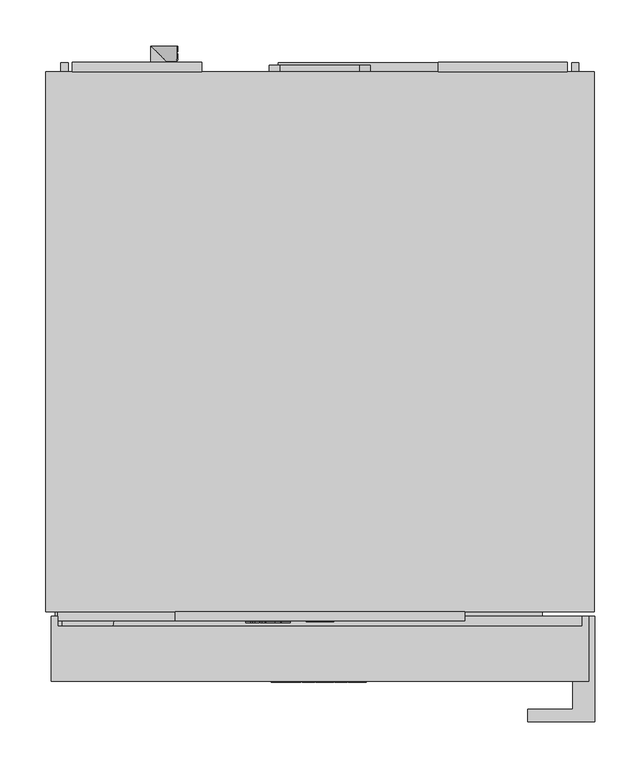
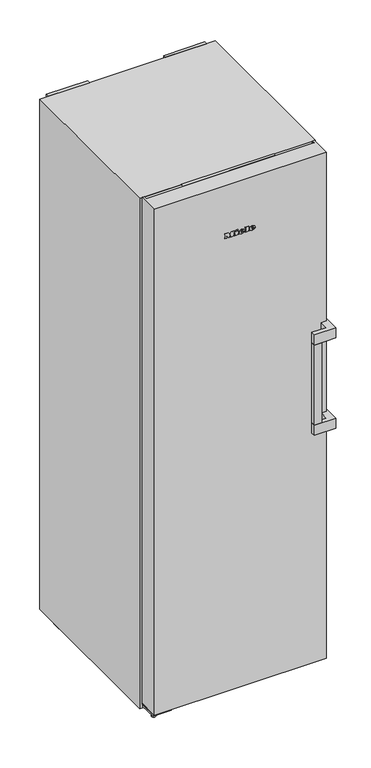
"""IFC4 building model written with IfcOpenShell, lengths in millimetres: proxy geometry, 11953190_EU1_FNS4782E_WS : 37478254_EU1_11953190_FNS4782E_WS."""

from ifc_helpers import new_model, si_unit, point, frame, frame_2d, origin, origin_with_axes, place, context, project, spatial, polyline, circle_curve, ellipse_curve, trimmed, segment, composite_curve, outline, extrude, faceted_brep, source, transform, mapped, element, save
from ifc_brep_helpers import plane_surface, cylinder_surface, revolved_surface, extruded_surface, advanced_brep


def specialty_equipment_fcf0ee09(model_context):
    return source(origin(), model_context, "Body", "SolidModel", [
        extrude(outline(polyline([(15.0, -609.5), (-15.0, -609.5), (-15.0, -606.5), (15.0, -606.5), (15.0, -609.5)])), frame((0.0, 0.0, 1812.0), z_axis=(0.0, 0.0, 1.0), x_axis=(1.0, 0.0, 0.0)), (0.0, 0.0, 1.0), 28.0),
        extrude(outline(polyline([(1845.5, 105.0), (1845.5, -105.0), (1806.5, -105.0), (1806.5, 105.0), (1845.5, 105.0)]), holes=[polyline([(1840.0, -15.0), (1840.0, 15.0), (1812.0, 15.0), (1812.0, -15.0), (1840.0, -15.0)])]), frame((0.0, -608.5, 0.0), z_axis=(0.0, 1.0, 0.0), x_axis=(0.0, 0.0, 1.0)), (0.0, 0.0, 1.0), 2.0),
        faceted_brep([(157.5, -598.5, 1802.0), (157.5, -608.5, 1802.0), (-157.5, -608.5, 1802.0), (-157.5, -598.5, 1802.0), (157.5, -598.5, 1850.0), (-157.5, -598.5, 1850.0), (-157.5, -608.5, 1850.0), (157.5, -608.5, 1850.0), (-105.0, -608.5, 1845.5), (105.0, -608.5, 1845.5), (105.0, -608.5, 1806.5), (-105.0, -608.5, 1806.5), (105.0, -606.5, 1845.5), (-105.0, -606.5, 1845.5), (-105.0, -606.5, 1806.5), (105.0, -606.5, 1806.5)], [[[0, 1, 2, 3]], [[4, 5, 6, 7]], [[0, 3, 5, 4]], [[3, 2, 6, 5]], [[2, 1, 7, 6], [8, 9, 10, 11]], [[1, 0, 4, 7]], [[12, 13, 14, 15]], [[13, 12, 9, 8]], [[14, 13, 8, 11]], [[15, 14, 11, 10]], [[12, 15, 10, 9]]]),
        advanced_brep(
        [(39.0804776, -675.5, 1668.7956125), (39.0804776, -675.5, 1670.5126125), (50.4534776, -675.5, 1670.5126125), (30.6654776, -675.5, 1670.5126125), (35.3404776, -675.5, 1664.7666125), (50.1644776, -675.5, 1668.7956125), (45.0304776, -675.5, 1668.7956125), (40.9844776, -675.5, 1666.8916125), (39.0804776, -675.5, 1672.6886125), (39.0804776, -675.5, 1674.5416125), (41.9874776, -675.5, 1674.5416125), (41.9874776, -675.5, 1672.6886125), (39.0804776, -674.5, 1668.7956125), (40.9844776, -674.5, 1666.8916125), (45.0304776, -674.5, 1668.7956125), (50.1644776, -674.5, 1668.7956125), (35.3404776, -674.5, 1664.7666125), (30.6654776, -674.5, 1670.5126125), (50.4534776, -674.5, 1670.5126125), (39.0804776, -674.5, 1670.5126125), (39.0804776, -674.5, 1672.6886125), (41.9874776, -674.5, 1672.6886125), (41.9874776, -674.5, 1674.5416125), (39.0804776, -674.5, 1674.5416125)],
        [
            (0, 1),
            (1, 2),
            (2, 3, ellipse_curve(frame((40.5594776, -675.5, 1670.5126125), z_axis=(0.0, -1.0, 0.0), x_axis=(-1.0, 0.0, 0.0)), 9.894, 8.177)),
            (3, 4, circle_curve(frame((37.2445704, -675.5, 1671.0906125), z_axis=(0.0, -1.0, 0.0), x_axis=(0.0, 0.0, -1.0)), 6.6044337)),
            (4, 5, circle_curve(frame((40.361414, -675.5, 1675.5786125), z_axis=(0.0, -1.0, 0.0), x_axis=(0.0, 0.0, -1.0)), 11.9209541)),
            (5, 6),
            (6, 7, circle_curve(frame((41.8154776, -675.5, 1670.3766125), z_axis=(0.0, 1.0, 0.0), x_axis=(0.0, 0.0, -1.0)), 3.5827065)),
            (7, 0, circle_curve(frame((40.9844776, -675.5, 1668.7956125), z_axis=(0.0, 1.0, 0.0), x_axis=(0.0, 0.0, -1.0)), 1.904)),
            (8, 9),
            (9, 10, circle_curve(frame((40.5339776, -675.5, 1674.5416125), z_axis=(0.0, 1.0, 0.0), x_axis=(0.0, 0.0, -1.0)), 1.4535)),
            (10, 11),
            (11, 8),
            (12, 13, circle_curve(frame((40.9844776, -674.5, 1668.7956125), z_axis=(0.0, -1.0, 0.0), x_axis=(0.0, 0.0, -1.0)), 1.904)),
            (13, 14, circle_curve(frame((41.8154776, -674.5, 1670.3766125), z_axis=(0.0, -1.0, 0.0), x_axis=(0.0, 0.0, -1.0)), 3.5827065)),
            (14, 15),
            (15, 16, circle_curve(frame((40.361414, -674.5, 1675.5786125), z_axis=(0.0, 1.0, 0.0), x_axis=(0.0, 0.0, -1.0)), 11.9209541)),
            (16, 17, circle_curve(frame((37.2445704, -674.5, 1671.0906125), z_axis=(0.0, 1.0, 0.0), x_axis=(0.0, 0.0, -1.0)), 6.6044337)),
            (17, 18, ellipse_curve(frame((40.5594776, -674.5, 1670.5126125), z_axis=(0.0, 1.0, 0.0), x_axis=(-1.0, 0.0, 0.0)), 9.894, 8.177)),
            (18, 19),
            (19, 12),
            (20, 21),
            (21, 22),
            (22, 23, circle_curve(frame((40.5339776, -674.5, 1674.5416125), z_axis=(0.0, -1.0, 0.0), x_axis=(0.0, 0.0, -1.0)), 1.4535)),
            (23, 20),
            (0, 12),
            (19, 1),
            (18, 2),
            (5, 15),
            (14, 6),
            (17, 3),
            (13, 7),
            (16, 4),
            (8, 20),
            (23, 9),
            (22, 10),
            (21, 11),
        ],
        [
            plane_surface(frame((39.0804776, -675.5, 1670.5126125), z_axis=(0.0, -1.0, 0.0), x_axis=(0.0, 0.0, 1.0))),
            plane_surface(frame((39.0804776, -674.5, 1670.5126125), z_axis=(0.0, 1.0, 0.0), x_axis=(0.0, 0.0, -1.0))),
            plane_surface(frame((39.0804776, -675.5, 1668.7956125), z_axis=(1.0, 0.0, 0.0), x_axis=(0.0, 1.0, 0.0))),
            plane_surface(frame((39.0804776, -675.5, 1670.5126125), z_axis=(0.0, 0.0, -1.0), x_axis=(0.0, 1.0, 0.0))),
            plane_surface(frame((50.1644776, -675.5, 1668.7956125), z_axis=(0.0, 0.0, 1.0), x_axis=(0.0, 1.0, 0.0))),
            extruded_surface(trimmed(ellipse_curve(frame((40.5594776, -673.5, 1670.5126125), z_axis=(0.0, -1.0, 0.0), x_axis=(-1.0, 0.0, 0.0)), 9.894, 8.177), [point((50.4534776, -673.5, 1670.5126125))], [point((30.6654776, -673.5, 1670.5126125))], True, "CARTESIAN"), (0.0, -1.0, 0.0), 1.0),
            revolved_surface(polyline([(41.8154776, -674.5, 1666.7939059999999), (41.8154776, -675.5, 1666.7939059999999)]), (41.8154776, -674.5, 1670.3766125), (0.0, 1.0, 0.0)),
            revolved_surface(polyline([(40.9844776, -674.5, 1666.8916125), (40.9844776, -675.5, 1666.8916125)]), (40.9844776, -674.5, 1668.7956125), (0.0, 1.0, 0.0)),
            cylinder_surface(frame((37.2445704, -674.5, 1671.0906125), z_axis=(0.0, -1.0, 0.0), x_axis=(0.0, 0.0, -1.0)), 6.6044337),
            cylinder_surface(frame((40.361414, -674.5, 1675.5786125), z_axis=(0.0, -1.0, 0.0), x_axis=(0.0, 0.0, -1.0)), 11.9209541),
            plane_surface(frame((39.0804776, -675.5, 1672.6886125), z_axis=(1.0, 0.0, 0.0), x_axis=(0.0, 1.0, 0.0))),
            revolved_surface(polyline([(40.5339776, -674.5, 1673.0881124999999), (40.5339776, -675.5, 1673.0881124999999)]), (40.5339776, -674.5, 1674.5416125), (0.0, 1.0, 0.0)),
            plane_surface(frame((41.9874776, -675.5, 1674.5416125), z_axis=(-1.0, 0.0, 0.0), x_axis=(0.0, 1.0, 0.0))),
            plane_surface(frame((41.9874776, -675.5, 1672.6886125), z_axis=(0.0, 0.0, 1.0), x_axis=(0.0, 1.0, 0.0))),
        ],
        [
            (0, [[1, 2, 3, 4, 5, 6, 7, 8], [9, 10, 11, 12]]),
            (1, [[13, 14, 15, 16, 17, 18, 19, 20], [21, 22, 23, 24]]),
            (2, [[-1, 25, -20, 26]]),
            (3, [[-2, -26, -19, 27]]),
            (4, [[-6, 28, -15, 29]]),
            (5, [[-3, -27, -18, 30]]),
            (6, [[-7, -29, -14, 31]]),
            (7, [[-8, -31, -13, -25]]),
            (8, [[-4, -30, -17, 32]]),
            (9, [[-5, -32, -16, -28]]),
            (10, [[-9, 33, -24, 34]]),
            (11, [[-10, -34, -23, 35]]),
            (12, [[-11, -35, -22, 36]]),
            (13, [[-12, -36, -21, -33]]),
        ],
    ),
        advanced_brep(
        [(3.6014776, -675.5, 1668.7956125), (3.6014776, -675.5, 1670.5126125), (14.9744776, -675.5, 1670.5126125), (-4.8135224, -675.5, 1670.5126125), (-0.1385224, -675.5, 1664.7666125), (14.6854776, -675.5, 1668.7956125), (9.5514776, -675.5, 1668.7956125), (5.5054776, -675.5, 1666.8916125), (3.6014776, -675.5, 1672.6886125), (3.6014776, -675.5, 1674.5416125), (6.5084776, -675.5, 1674.5416125), (6.5084776, -675.5, 1672.6886125), (3.6014776, -674.5, 1668.7956125), (5.5054776, -674.5, 1666.8916125), (9.5514776, -674.5, 1668.7956125), (14.6854776, -674.5, 1668.7956125), (-0.1385224, -674.5, 1664.7666125), (-4.8135224, -674.5, 1670.5126125), (14.9744776, -674.5, 1670.5126125), (3.6014776, -674.5, 1670.5126125), (3.6014776, -674.5, 1672.6886125), (6.5084776, -674.5, 1672.6886125), (6.5084776, -674.5, 1674.5416125), (3.6014776, -674.5, 1674.5416125)],
        [
            (0, 1),
            (1, 2),
            (2, 3, ellipse_curve(frame((5.0804776, -675.5, 1670.5126125), z_axis=(0.0, -1.0, 0.0), x_axis=(-1.0, 0.0, 0.0)), 9.894, 8.177)),
            (3, 4, circle_curve(frame((1.7655704, -675.5, 1671.0906125), z_axis=(0.0, -1.0, 0.0), x_axis=(0.0, 0.0, -1.0)), 6.6044337)),
            (4, 5, circle_curve(frame((4.882414, -675.5, 1675.5786125), z_axis=(0.0, -1.0, 0.0), x_axis=(0.0, 0.0, -1.0)), 11.9209541)),
            (5, 6),
            (6, 7, circle_curve(frame((6.3364776, -675.5, 1670.3766125), z_axis=(0.0, 1.0, 0.0), x_axis=(0.0, 0.0, -1.0)), 3.5827065)),
            (7, 0, circle_curve(frame((5.5054776, -675.5, 1668.7956125), z_axis=(0.0, 1.0, 0.0), x_axis=(0.0, 0.0, -1.0)), 1.904)),
            (8, 9),
            (9, 10, circle_curve(frame((5.0549776, -675.5, 1674.5416125), z_axis=(0.0, 1.0, 0.0), x_axis=(0.0, 0.0, -1.0)), 1.4535)),
            (10, 11),
            (11, 8),
            (12, 13, circle_curve(frame((5.5054776, -674.5, 1668.7956125), z_axis=(0.0, -1.0, 0.0), x_axis=(0.0, 0.0, -1.0)), 1.904)),
            (13, 14, circle_curve(frame((6.3364776, -674.5, 1670.3766125), z_axis=(0.0, -1.0, 0.0), x_axis=(0.0, 0.0, -1.0)), 3.5827065)),
            (14, 15),
            (15, 16, circle_curve(frame((4.882414, -674.5, 1675.5786125), z_axis=(0.0, 1.0, 0.0), x_axis=(0.0, 0.0, -1.0)), 11.9209541)),
            (16, 17, circle_curve(frame((1.7655704, -674.5, 1671.0906125), z_axis=(0.0, 1.0, 0.0), x_axis=(0.0, 0.0, -1.0)), 6.6044337)),
            (17, 18, ellipse_curve(frame((5.0804776, -674.5, 1670.5126125), z_axis=(0.0, 1.0, 0.0), x_axis=(-1.0, 0.0, 0.0)), 9.894, 8.177)),
            (18, 19),
            (19, 12),
            (20, 21),
            (21, 22),
            (22, 23, circle_curve(frame((5.0549776, -674.5, 1674.5416125), z_axis=(0.0, -1.0, 0.0), x_axis=(0.0, 0.0, -1.0)), 1.4535)),
            (23, 20),
            (0, 12),
            (19, 1),
            (18, 2),
            (5, 15),
            (14, 6),
            (17, 3),
            (13, 7),
            (16, 4),
            (8, 20),
            (23, 9),
            (22, 10),
            (21, 11),
        ],
        [
            plane_surface(frame((3.6014776, -675.5, 1670.5126125), z_axis=(0.0, -1.0, 0.0), x_axis=(0.0, 0.0, 1.0))),
            plane_surface(frame((3.6014776, -674.5, 1670.5126125), z_axis=(0.0, 1.0, 0.0), x_axis=(0.0, 0.0, -1.0))),
            plane_surface(frame((3.6014776, -675.5, 1668.7956125), z_axis=(1.0, 0.0, 0.0), x_axis=(0.0, 1.0, 0.0))),
            plane_surface(frame((3.6014776, -675.5, 1670.5126125), z_axis=(0.0, 0.0, -1.0), x_axis=(0.0, 1.0, 0.0))),
            plane_surface(frame((14.6854776, -675.5, 1668.7956125), z_axis=(0.0, 0.0, 1.0), x_axis=(0.0, 1.0, 0.0))),
            extruded_surface(trimmed(ellipse_curve(frame((5.0804776, -673.5, 1670.5126125), z_axis=(0.0, -1.0, 0.0), x_axis=(-1.0, 0.0, 0.0)), 9.894, 8.177), [point((14.9744776, -673.5, 1670.5126125))], [point((-4.8135224, -673.5, 1670.5126125))], True, "CARTESIAN"), (0.0, -1.0, 0.0), 1.0),
            revolved_surface(polyline([(6.3364776, -674.5, 1666.7939059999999), (6.3364776, -675.5, 1666.7939059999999)]), (6.3364776, -674.5, 1670.3766125), (0.0, 1.0, 0.0)),
            revolved_surface(polyline([(5.5054776, -674.5, 1666.8916125), (5.5054776, -675.5, 1666.8916125)]), (5.5054776, -674.5, 1668.7956125), (0.0, 1.0, 0.0)),
            cylinder_surface(frame((1.7655704, -674.5, 1671.0906125), z_axis=(0.0, -1.0, 0.0), x_axis=(0.0, 0.0, -1.0)), 6.6044337),
            cylinder_surface(frame((4.882414, -674.5, 1675.5786125), z_axis=(0.0, -1.0, 0.0), x_axis=(0.0, 0.0, -1.0)), 11.9209541),
            plane_surface(frame((3.6014776, -675.5, 1672.6886125), z_axis=(1.0, 0.0, 0.0), x_axis=(0.0, 1.0, 0.0))),
            revolved_surface(polyline([(5.0549776, -674.5, 1673.0881124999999), (5.0549776, -675.5, 1673.0881124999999)]), (5.0549776, -674.5, 1674.5416125), (0.0, 1.0, 0.0)),
            plane_surface(frame((6.5084776, -675.5, 1674.5416125), z_axis=(-1.0, 0.0, 0.0), x_axis=(0.0, 1.0, 0.0))),
            plane_surface(frame((6.5084776, -675.5, 1672.6886125), z_axis=(0.0, 0.0, 1.0), x_axis=(0.0, 1.0, 0.0))),
        ],
        [
            (0, [[1, 2, 3, 4, 5, 6, 7, 8], [9, 10, 11, 12]]),
            (1, [[13, 14, 15, 16, 17, 18, 19, 20], [21, 22, 23, 24]]),
            (2, [[-1, 25, -20, 26]]),
            (3, [[-2, -26, -19, 27]]),
            (4, [[-6, 28, -15, 29]]),
            (5, [[-3, -27, -18, 30]]),
            (6, [[-7, -29, -14, 31]]),
            (7, [[-8, -31, -13, -25]]),
            (8, [[-4, -30, -17, 32]]),
            (9, [[-5, -32, -16, -28]]),
            (10, [[-9, 33, -24, 34]]),
            (11, [[-10, -34, -23, 35]]),
            (12, [[-11, -35, -22, 36]]),
            (13, [[-12, -36, -21, -33]]),
        ],
    ),
        extrude(outline(polyline([(1680.7636125, -14.9795224), (1678.0096125, -13.6875224), (1680.6956125, -7.9245224), (1683.4496125, -9.1995224), (1680.7636125, -14.9795224)])), frame((0.0, -675.5, 0.0), z_axis=(0.0, 1.0, 0.0), x_axis=(0.0, 0.0, 1.0)), (0.0, 0.0, 1.0), 1.0),
        extrude(outline(polyline([(1677.6356125, -19.1785224), (1674.5926125, -19.1785224), (1674.5926125, -17.1555224), (1667.6226125, -17.1555224), (1667.6226125, -19.1785224), (1664.7666125, -19.1785224), (1664.7666125, -5.7655224), (1667.6226125, -5.7655224), (1667.6226125, -7.7375224), (1677.6356125, -7.7375224), (1677.6356125, -19.1785224)])), frame((0.0, -675.5, 0.0), z_axis=(0.0, 1.0, 0.0), x_axis=(0.0, 0.0, 1.0)), (0.0, 0.0, 1.0), 1.0),
        extrude(outline(polyline([(1678.9956125, 15.9264776), (1678.9956125, 17.9664776), (1667.6226125, 17.9664776), (1667.6226125, 15.9264776), (1664.7666125, 15.9264776), (1664.7666125, 29.7134776), (1667.6226125, 29.7134776), (1667.6226125, 27.6224776), (1681.7666125, 27.6224776), (1681.7666125, 15.9264776), (1678.9956125, 15.9264776)])), frame((0.0, -675.5, 0.0), z_axis=(0.0, 1.0, 0.0), x_axis=(0.0, 0.0, 1.0)), (0.0, 0.0, 1.0), 1.0),
        extrude(outline(polyline([(1678.9956125, -53.0595224), (1678.9956125, -51.0025224), (1667.6226125, -51.0025224), (1667.6226125, -53.0595224), (1664.7666125, -53.0595224), (1664.7666125, -45.5795224), (1667.6226125, -45.5795224), (1667.6226125, -47.6195224), (1674.7967372, -47.6195224), (1664.7666125, -40.0205224), (1675.2068348, -32.3875224), (1667.6226125, -32.3875224), (1667.6226125, -34.4785224), (1664.7666125, -34.4785224), (1664.7666125, -20.9125224), (1667.6226125, -20.9125224), (1667.6226125, -23.0715224), (1678.9956125, -23.0715224), (1678.9956125, -20.9125224), (1681.7666125, -20.9125224), (1681.7666125, -31.2655224), (1675.3916125, -36.2295224), (1681.7666125, -41.2105224), (1681.7666125, -53.0595224), (1678.9956125, -53.0595224)])), frame((0.0, -675.5, 0.0), z_axis=(0.0, 1.0, 0.0), x_axis=(0.0, 0.0, 1.0)), (0.0, 0.0, 1.0), 1.0),
        advanced_brep(
        [(-37.64, -610.5, 1828.896), (-37.64, -610.5, 1829.704), (-32.288, -610.5, 1829.704), (-41.6, -610.5, 1829.704), (-39.4, -610.5, 1827.0), (-32.424, -610.5, 1828.896), (-34.84, -610.5, 1828.896), (-36.744, -610.5, 1828.0), (-37.64, -610.5, 1830.728), (-37.64, -610.5, 1831.6), (-36.272, -610.5, 1831.6), (-36.272, -610.5, 1830.728), (-37.64, -609.5, 1828.896), (-36.744, -609.5, 1828.0), (-34.84, -609.5, 1828.896), (-32.424, -609.5, 1828.896), (-39.4, -609.5, 1827.0), (-41.6, -609.5, 1829.704), (-32.288, -609.5, 1829.704), (-37.64, -609.5, 1829.704), (-37.64, -609.5, 1830.728), (-36.272, -609.5, 1830.728), (-36.272, -609.5, 1831.6), (-37.64, -609.5, 1831.6)],
        [
            (0, 1),
            (1, 2),
            (2, 3, ellipse_curve(frame((-36.944, -610.5, 1829.704), z_axis=(0.0, -1.0, 0.0), x_axis=(-1.0, 0.0, 0.0)), 4.656, 3.848)),
            (3, 4, circle_curve(frame((-38.5039564, -610.5, 1829.976), z_axis=(0.0, -1.0, 0.0), x_axis=(0.0, 0.0, -1.0)), 3.1079688)),
            (4, 5, circle_curve(frame((-37.0372064, -610.5, 1832.088), z_axis=(0.0, -1.0, 0.0), x_axis=(0.0, 0.0, -1.0)), 5.6098607)),
            (5, 6),
            (6, 7, circle_curve(frame((-36.3529412, -610.5, 1829.64), z_axis=(0.0, 1.0, 0.0), x_axis=(0.0, 0.0, -1.0)), 1.6859795)),
            (7, 0, circle_curve(frame((-36.744, -610.5, 1828.896), z_axis=(0.0, 1.0, 0.0), x_axis=(0.0, 0.0, -1.0)), 0.896)),
            (8, 9),
            (9, 10, circle_curve(frame((-36.956, -610.5, 1831.6), z_axis=(0.0, 1.0, 0.0), x_axis=(0.0, 0.0, -1.0)), 0.684)),
            (10, 11),
            (11, 8),
            (12, 13, circle_curve(frame((-36.744, -609.5, 1828.896), z_axis=(0.0, -1.0, 0.0), x_axis=(0.0, 0.0, -1.0)), 0.896)),
            (13, 14, circle_curve(frame((-36.3529412, -609.5, 1829.64), z_axis=(0.0, -1.0, 0.0), x_axis=(0.0, 0.0, -1.0)), 1.6859795)),
            (14, 15),
            (15, 16, circle_curve(frame((-37.0372064, -609.5, 1832.088), z_axis=(0.0, 1.0, 0.0), x_axis=(0.0, 0.0, -1.0)), 5.6098607)),
            (16, 17, circle_curve(frame((-38.5039564, -609.5, 1829.976), z_axis=(0.0, 1.0, 0.0), x_axis=(0.0, 0.0, -1.0)), 3.1079688)),
            (17, 18, ellipse_curve(frame((-36.944, -609.5, 1829.704), z_axis=(0.0, 1.0, 0.0), x_axis=(-1.0, 0.0, 0.0)), 4.656, 3.848)),
            (18, 19),
            (19, 12),
            (20, 21),
            (21, 22),
            (22, 23, circle_curve(frame((-36.956, -609.5, 1831.6), z_axis=(0.0, -1.0, 0.0), x_axis=(0.0, 0.0, -1.0)), 0.684)),
            (23, 20),
            (0, 12),
            (19, 1),
            (18, 2),
            (5, 15),
            (14, 6),
            (17, 3),
            (13, 7),
            (16, 4),
            (8, 20),
            (23, 9),
            (22, 10),
            (21, 11),
        ],
        [
            plane_surface(frame((-37.64, -610.5, 1829.704), z_axis=(0.0, -1.0, 0.0), x_axis=(0.0, 0.0, 1.0))),
            plane_surface(frame((-37.64, -609.5, 1829.704), z_axis=(0.0, 1.0, 0.0), x_axis=(0.0, 0.0, -1.0))),
            plane_surface(frame((-37.64, -610.5, 1828.896), z_axis=(1.0, 0.0, 0.0), x_axis=(0.0, 1.0, 0.0))),
            plane_surface(frame((-37.64, -610.5, 1829.704), z_axis=(0.0, 0.0, -1.0), x_axis=(0.0, 1.0, 0.0))),
            plane_surface(frame((-32.424, -610.5, 1828.896), z_axis=(0.0, 0.0, 1.0), x_axis=(0.0, 1.0, 0.0))),
            extruded_surface(trimmed(ellipse_curve(frame((-36.944, -608.5, 1829.704), z_axis=(0.0, -1.0, 0.0), x_axis=(-1.0, 0.0, 0.0)), 4.656, 3.848), [point((-32.288, -608.5, 1829.704))], [point((-41.6, -608.5, 1829.704))], True, "CARTESIAN"), (0.0, -1.0, 0.0), 1.0),
            revolved_surface(polyline([(-36.3529412, -609.5, 1827.9540205), (-36.3529412, -610.5, 1827.9540205)]), (-36.3529412, -609.5, 1829.64), (0.0, 1.0, 0.0)),
            revolved_surface(polyline([(-36.744, -609.5, 1828.0), (-36.744, -610.5, 1828.0)]), (-36.744, -609.5, 1828.896), (0.0, 1.0, 0.0)),
            cylinder_surface(frame((-38.5039564, -609.5, 1829.976), z_axis=(0.0, -1.0, 0.0), x_axis=(0.0, 0.0, -1.0)), 3.1079688),
            cylinder_surface(frame((-37.0372064, -609.5, 1832.088), z_axis=(0.0, -1.0, 0.0), x_axis=(0.0, 0.0, -1.0)), 5.6098607),
            plane_surface(frame((-37.64, -610.5, 1830.728), z_axis=(1.0, 0.0, 0.0), x_axis=(0.0, 1.0, 0.0))),
            revolved_surface(polyline([(-36.956, -609.5, 1830.916), (-36.956, -610.5, 1830.916)]), (-36.956, -609.5, 1831.6), (0.0, 1.0, 0.0)),
            plane_surface(frame((-36.272, -610.5, 1831.6), z_axis=(-1.0, 0.0, 0.0), x_axis=(0.0, 1.0, 0.0))),
            plane_surface(frame((-36.272, -610.5, 1830.728), z_axis=(0.0, 0.0, 1.0), x_axis=(0.0, 1.0, 0.0))),
        ],
        [
            (0, [[1, 2, 3, 4, 5, 6, 7, 8], [9, 10, 11, 12]]),
            (1, [[13, 14, 15, 16, 17, 18, 19, 20], [21, 22, 23, 24]]),
            (2, [[-1, 25, -20, 26]]),
            (3, [[-2, -26, -19, 27]]),
            (4, [[-6, 28, -15, 29]]),
            (5, [[-3, -27, -18, 30]]),
            (6, [[-7, -29, -14, 31]]),
            (7, [[-8, -31, -13, -25]]),
            (8, [[-4, -30, -17, 32]]),
            (9, [[-5, -32, -16, -28]]),
            (10, [[-9, 33, -24, 34]]),
            (11, [[-10, -34, -23, 35]]),
            (12, [[-11, -35, -22, 36]]),
            (13, [[-12, -36, -21, -33]]),
        ],
    ),
        advanced_brep(
        [(-54.336, -610.5, 1828.896), (-54.336, -610.5, 1829.704), (-48.984, -610.5, 1829.704), (-58.296, -610.5, 1829.704), (-56.096, -610.5, 1827.0), (-49.12, -610.5, 1828.896), (-51.536, -610.5, 1828.896), (-53.44, -610.5, 1828.0), (-54.336, -610.5, 1830.728), (-54.336, -610.5, 1831.6), (-52.968, -610.5, 1831.6), (-52.968, -610.5, 1830.728), (-54.336, -609.5, 1828.896), (-53.44, -609.5, 1828.0), (-51.536, -609.5, 1828.896), (-49.12, -609.5, 1828.896), (-56.096, -609.5, 1827.0), (-58.296, -609.5, 1829.704), (-48.984, -609.5, 1829.704), (-54.336, -609.5, 1829.704), (-54.336, -609.5, 1830.728), (-52.968, -609.5, 1830.728), (-52.968, -609.5, 1831.6), (-54.336, -609.5, 1831.6)],
        [
            (0, 1),
            (1, 2),
            (2, 3, ellipse_curve(frame((-53.64, -610.5, 1829.704), z_axis=(0.0, -1.0, 0.0), x_axis=(-1.0, 0.0, 0.0)), 4.656, 3.848)),
            (3, 4, circle_curve(frame((-55.1999564, -610.5, 1829.976), z_axis=(0.0, -1.0, 0.0), x_axis=(0.0, 0.0, -1.0)), 3.1079688)),
            (4, 5, circle_curve(frame((-53.7332064, -610.5, 1832.088), z_axis=(0.0, -1.0, 0.0), x_axis=(0.0, 0.0, -1.0)), 5.6098607)),
            (5, 6),
            (6, 7, circle_curve(frame((-53.0489412, -610.5, 1829.64), z_axis=(0.0, 1.0, 0.0), x_axis=(0.0, 0.0, -1.0)), 1.6859795)),
            (7, 0, circle_curve(frame((-53.44, -610.5, 1828.896), z_axis=(0.0, 1.0, 0.0), x_axis=(0.0, 0.0, -1.0)), 0.896)),
            (8, 9),
            (9, 10, circle_curve(frame((-53.652, -610.5, 1831.6), z_axis=(0.0, 1.0, 0.0), x_axis=(0.0, 0.0, -1.0)), 0.684)),
            (10, 11),
            (11, 8),
            (12, 13, circle_curve(frame((-53.44, -609.5, 1828.896), z_axis=(0.0, -1.0, 0.0), x_axis=(0.0, 0.0, -1.0)), 0.896)),
            (13, 14, circle_curve(frame((-53.0489412, -609.5, 1829.64), z_axis=(0.0, -1.0, 0.0), x_axis=(0.0, 0.0, -1.0)), 1.6859795)),
            (14, 15),
            (15, 16, circle_curve(frame((-53.7332064, -609.5, 1832.088), z_axis=(0.0, 1.0, 0.0), x_axis=(0.0, 0.0, -1.0)), 5.6098607)),
            (16, 17, circle_curve(frame((-55.1999564, -609.5, 1829.976), z_axis=(0.0, 1.0, 0.0), x_axis=(0.0, 0.0, -1.0)), 3.1079688)),
            (17, 18, ellipse_curve(frame((-53.64, -609.5, 1829.704), z_axis=(0.0, 1.0, 0.0), x_axis=(-1.0, 0.0, 0.0)), 4.656, 3.848)),
            (18, 19),
            (19, 12),
            (20, 21),
            (21, 22),
            (22, 23, circle_curve(frame((-53.652, -609.5, 1831.6), z_axis=(0.0, -1.0, 0.0), x_axis=(0.0, 0.0, -1.0)), 0.684)),
            (23, 20),
            (0, 12),
            (19, 1),
            (18, 2),
            (5, 15),
            (14, 6),
            (17, 3),
            (13, 7),
            (16, 4),
            (8, 20),
            (23, 9),
            (22, 10),
            (21, 11),
        ],
        [
            plane_surface(frame((-54.336, -610.5, 1829.704), z_axis=(0.0, -1.0, 0.0), x_axis=(0.0, 0.0, 1.0))),
            plane_surface(frame((-54.336, -609.5, 1829.704), z_axis=(0.0, 1.0, 0.0), x_axis=(0.0, 0.0, -1.0))),
            plane_surface(frame((-54.336, -610.5, 1828.896), z_axis=(1.0, 0.0, 0.0), x_axis=(0.0, 1.0, 0.0))),
            plane_surface(frame((-54.336, -610.5, 1829.704), z_axis=(0.0, 0.0, -1.0), x_axis=(0.0, 1.0, 0.0))),
            plane_surface(frame((-49.12, -610.5, 1828.896), z_axis=(0.0, 0.0, 1.0), x_axis=(0.0, 1.0, 0.0))),
            extruded_surface(trimmed(ellipse_curve(frame((-53.64, -608.5, 1829.704), z_axis=(0.0, -1.0, 0.0), x_axis=(-1.0, 0.0, 0.0)), 4.656, 3.848), [point((-48.984, -608.5, 1829.704))], [point((-58.296, -608.5, 1829.704))], True, "CARTESIAN"), (0.0, -1.0, 0.0), 1.0),
            revolved_surface(polyline([(-53.0489412, -609.5, 1827.9540205), (-53.0489412, -610.5, 1827.9540205)]), (-53.0489412, -609.5, 1829.64), (0.0, 1.0, 0.0)),
            revolved_surface(polyline([(-53.44, -609.5, 1828.0), (-53.44, -610.5, 1828.0)]), (-53.44, -609.5, 1828.896), (0.0, 1.0, 0.0)),
            cylinder_surface(frame((-55.1999564, -609.5, 1829.976), z_axis=(0.0, -1.0, 0.0), x_axis=(0.0, 0.0, -1.0)), 3.1079688),
            cylinder_surface(frame((-53.7332064, -609.5, 1832.088), z_axis=(0.0, -1.0, 0.0), x_axis=(0.0, 0.0, -1.0)), 5.6098607),
            plane_surface(frame((-54.336, -610.5, 1830.728), z_axis=(1.0, 0.0, 0.0), x_axis=(0.0, 1.0, 0.0))),
            revolved_surface(polyline([(-53.652, -609.5, 1830.916), (-53.652, -610.5, 1830.916)]), (-53.652, -609.5, 1831.6), (0.0, 1.0, 0.0)),
            plane_surface(frame((-52.968, -610.5, 1831.6), z_axis=(-1.0, 0.0, 0.0), x_axis=(0.0, 1.0, 0.0))),
            plane_surface(frame((-52.968, -610.5, 1830.728), z_axis=(0.0, 0.0, 1.0), x_axis=(0.0, 1.0, 0.0))),
        ],
        [
            (0, [[1, 2, 3, 4, 5, 6, 7, 8], [9, 10, 11, 12]]),
            (1, [[13, 14, 15, 16, 17, 18, 19, 20], [21, 22, 23, 24]]),
            (2, [[-1, 25, -20, 26]]),
            (3, [[-2, -26, -19, 27]]),
            (4, [[-6, 28, -15, 29]]),
            (5, [[-3, -27, -18, 30]]),
            (6, [[-7, -29, -14, 31]]),
            (7, [[-8, -31, -13, -25]]),
            (8, [[-4, -30, -17, 32]]),
            (9, [[-5, -32, -16, -28]]),
            (10, [[-9, 33, -24, 34]]),
            (11, [[-10, -34, -23, 35]]),
            (12, [[-11, -35, -22, 36]]),
            (13, [[-12, -36, -21, -33]]),
        ],
    ),
        extrude(outline(polyline([(1834.528, -63.08), (1833.232, -62.472), (1834.496, -59.76), (1835.792, -60.36), (1834.528, -63.08)])), frame((0.0, -610.5, 0.0), z_axis=(0.0, 1.0, 0.0), x_axis=(0.0, 0.0, 1.0)), (0.0, 0.0, 1.0), 1.0),
        extrude(outline(polyline([(1833.056, -65.056), (1831.624, -65.056), (1831.624, -64.104), (1828.344, -64.104), (1828.344, -65.056), (1827.0, -65.056), (1827.0, -58.744), (1828.344, -58.744), (1828.344, -59.672), (1833.056, -59.672), (1833.056, -65.056)])), frame((0.0, -610.5, 0.0), z_axis=(0.0, 1.0, 0.0), x_axis=(0.0, 0.0, 1.0)), (0.0, 0.0, 1.0), 1.0),
        extrude(outline(polyline([(1833.696, -48.536), (1833.696, -47.576), (1828.344, -47.576), (1828.344, -48.536), (1827.0, -48.536), (1827.0, -42.048), (1828.344, -42.048), (1828.344, -43.032), (1835.0, -43.032), (1835.0, -48.536), (1833.696, -48.536)])), frame((0.0, -610.5, 0.0), z_axis=(0.0, 1.0, 0.0), x_axis=(0.0, 0.0, 1.0)), (0.0, 0.0, 1.0), 1.0),
        extrude(outline(polyline([(1833.696, -81.0), (1833.696, -80.032), (1828.344, -80.032), (1828.344, -81.0), (1827.0, -81.0), (1827.0, -77.48), (1828.344, -77.48), (1828.344, -78.44), (1831.7471247, -78.44), (1827.0, -74.864), (1831.8152223, -71.272), (1828.344, -71.272), (1828.344, -72.256), (1827.0, -72.256), (1827.0, -65.872), (1828.344, -65.872), (1828.344, -66.888), (1833.696, -66.888), (1833.696, -65.872), (1835.0, -65.872), (1835.0, -70.744), (1832.0, -73.08), (1835.0, -75.424), (1835.0, -81.0), (1833.696, -81.0)])), frame((0.0, -610.5, 0.0), z_axis=(0.0, 1.0, 0.0), x_axis=(0.0, 0.0, 1.0)), (0.0, 0.0, 1.0), 1.0),
        extrude(outline(polyline([(-42.8527823, 0.0), (-48.1304417, 3.2708192), (-29.8908031, 3.2708192), (-34.9274229, 0.0), (-42.8527823, 0.0)])), frame((238.5469678, 0.0, 0.0), z_axis=(1.0, 0.0, 0.0), x_axis=(0.0, 1.0, 0.0)), (0.0, 0.0, 1.0), 15.1632647),
        extrude(outline(polyline([(-42.8527823, 0.0), (-48.1304417, 3.2708192), (-29.8908031, 3.2708192), (-34.9274229, 0.0), (-42.8527823, 0.0)])), frame((-253.7102325, 0.0, 0.0), z_axis=(1.0, 0.0, 0.0), x_axis=(0.0, 1.0, 0.0)), (0.0, 0.0, 1.0), 15.1632647),
        extrude(outline(polyline([(2.1227397, 65.0), (2.1227397, 75.045631), (9.343037, 75.045631), (9.343037, 73.7899271), (3.3784436, 73.7899271), (3.3784436, 70.8076304), (9.029111, 70.8076304), (9.029111, 69.5519266), (3.3784436, 69.5519266), (3.3784436, 66.2557039), (9.5, 66.2557039), (9.5, 65.0), (2.1227397, 65.0)])), frame((-156.0615355, 0.0, 0.0), z_axis=(1.0, 0.0, 0.0), x_axis=(0.0, 1.0, 0.0)), (0.0, 0.0, 1.0), 1.0),
        extrude(outline(polyline([(11.3835558, 65.0), (11.3835558, 75.045631), (12.6392597, 75.045631), (12.6392597, 66.2557039), (17.6620752, 66.2557039), (17.6620752, 65.0), (11.3835558, 65.0)])), frame((-156.0615355, 0.0, 0.0), z_axis=(1.0, 0.0, 0.0), x_axis=(0.0, 1.0, 0.0)), (0.0, 0.0, 1.0), 1.0),
        advanced_brep(
        [(-168.0615355, -10.5, 70.0), (-184.0615355, -10.5, 70.0), (-168.0615355, 1.5, 70.0), (-184.0615355, 17.5, 70.0), (-156.0615355, 1.5, 70.0), (-156.0615355, 17.5, 70.0)],
        [
            (0, 1, circle_curve(frame((-176.0615355, -10.5, 70.0), z_axis=(0.0, -1.0, 0.0), x_axis=(-1.0, 0.0, 0.0)), 8.0)),
            (1, 0, circle_curve(frame((-176.0615355, -10.5, 70.0), z_axis=(0.0, -1.0, 0.0), x_axis=(-1.0, 0.0, 0.0)), 8.0)),
            (0, 2),
            (2, 3, ellipse_curve(frame((-176.0615355, 9.5, 70.0), z_axis=(-0.7071067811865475, -0.7071067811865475, 0.0), x_axis=(0.7071067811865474, -0.7071067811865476, 0.0)), 11.3137085, 8.0)),
            (3, 1),
            (3, 2, ellipse_curve(frame((-176.0615355, 9.5, 70.0), z_axis=(-0.7071067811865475, -0.7071067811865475, 0.0), x_axis=(0.7071067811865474, -0.7071067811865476, 0.0)), 11.3137085, 8.0)),
            (4, 5, circle_curve(frame((-156.0615355, 9.5, 70.0), z_axis=(1.0, 0.0, 0.0), x_axis=(0.0, 1.0, 0.0)), 8.0)),
            (5, 4, circle_curve(frame((-156.0615355, 9.5, 70.0), z_axis=(1.0, 0.0, 0.0), x_axis=(0.0, 1.0, 0.0)), 8.0)),
            (2, 4),
            (5, 3),
        ],
        [
            plane_surface(frame((-176.0615355, -10.5, 0.0), z_axis=(0.0, -1.0, 0.0), x_axis=(0.0, 0.0, 1.0))),
            cylinder_surface(frame((-176.0615355, -10.5, 70.0), z_axis=(0.0, -1.0, 0.0), x_axis=(-1.0, 0.0, 0.0)), 8.0),
            plane_surface(frame((-156.0615355, 9.5, 0.0), z_axis=(1.0, 0.0, 0.0), x_axis=(0.0, 0.0, 1.0))),
            cylinder_surface(frame((-176.0615355, 9.5, 70.0), z_axis=(-1.0, 0.0, 0.0), x_axis=(0.0, 1.0, 0.0)), 8.0),
        ],
        [
            (0, [[1, 2]]),
            (1, [[-1, 3, 4, 5]]),
            (1, [[-2, -5, 6, -3]]),
            (2, [[7, 8]]),
            (3, [[-4, 9, -8, 10]]),
            (3, [[-6, -10, -7, -9]]),
        ],
    ),
        extrude(outline(polyline([(-118.9841834, 15.0), (-62.9841834, 15.0), (-75.5706779, 0.0), (-106.3976889, 0.0), (-118.9841834, 15.0)])), frame((-288.5, 0.0, 0.0), z_axis=(1.0, 0.0, 0.0), x_axis=(0.0, 1.0, 0.0)), (0.0, 0.0, 1.0), 16.0),
        extrude(outline(polyline([(-118.9841834, 15.0), (-62.9841834, 15.0), (-75.5706779, 0.0), (-106.3976889, 0.0), (-118.9841834, 15.0)])), frame((272.5, 0.0, 0.0), z_axis=(1.0, 0.0, 0.0), x_axis=(0.0, 1.0, 0.0)), (0.0, 0.0, 1.0), 16.0),
        extrude(outline(polyline([(281.8051758, -10.5), (274.2947998, -10.5), (274.2947998, -0.5), (281.8051758, -0.5), (281.8051758, -10.5)])), frame((0.0, 0.0, 239.4947815), z_axis=(0.0, 0.0, 1.0), x_axis=(1.0, 0.0, 0.0)), (0.0, 0.0, 1.0), 18.4103699),
        extrude(outline(polyline([(-274.0827332, -10.5), (-282.1051331, -10.5), (-282.1051331, -0.5), (-274.0827332, -0.5), (-274.0827332, -10.5)])), frame((0.0, 0.0, 239.4947815), z_axis=(0.0, 0.0, 1.0), x_axis=(1.0, 0.0, 0.0)), (0.0, 0.0, 1.0), 18.3224792),
        extrude(outline(polyline([(190.0, 177.5), (133.0, 177.5), (133.0, -45.5), (64.0, -45.5), (64.0, 258.5), (190.0, 258.5), (190.0, 177.5)])), frame((0.0, -10.5, 0.0), z_axis=(0.0, 1.0, 0.0), x_axis=(0.0, 0.0, 1.0)), (0.0, 0.0, 1.0), 10.0),
        extrude(outline(polyline([(269.5372046, -10.5), (129.0, -10.5), (129.0, 0.0), (269.5372046, 0.0), (269.5372046, -10.5)])), frame((0.0, 0.0, 1826.0), z_axis=(0.0, 0.0, 1.0), x_axis=(1.0, 0.0, 0.0)), (0.0, 0.0, 1.0), 24.0),
        extrude(outline(polyline([(-129.0, -10.5), (-269.5372046, -10.5), (-269.5372046, 0.0), (-129.0, 0.0), (-129.0, -10.5)])), frame((0.0, 0.0, 1826.0), z_axis=(0.0, 0.0, 1.0), x_axis=(1.0, 0.0, 0.0)), (0.0, 0.0, 1.0), 24.0),
        extrude(outline(polyline([(64.0, -159.5), (-64.0, -159.5), (-64.0, -71.5), (64.0, -71.5), (64.0, -159.5)])), frame((0.0, 0.0, 1636.0), z_axis=(0.0, 0.0, 1.0), x_axis=(1.0, 0.0, 0.0)), (0.0, 0.0, 1.0), 177.6535004),
        extrude(outline(polyline([(55.0, -521.5), (55.0, -575.5), (-55.0, -575.5), (-55.0, -521.5), (55.0, -521.5)])), frame((0.0, 0.0, 1759.0), z_axis=(0.0, 0.0, 1.0), x_axis=(1.0, 0.0, 0.0)), (0.0, 0.0, 1.0), 1.0),
        extrude(outline(composite_curve([segment(trimmed(circle_curve(frame_2d((-248.75, -584.5)), 10.0), [point((-258.75, -584.5))], [point((-238.75, -584.5))], False, "CARTESIAN"), True, "CONTINUOUS"), segment(trimmed(circle_curve(frame_2d((-248.75, -584.5)), 10.0), [point((-238.75, -584.5))], [point((-258.75, -584.5))], False, "CARTESIAN"), True, "CONTINUOUS")], self_intersect=False)), origin_with_axes(), (0.0, 0.0, 1.0), 15.0),
        extrude(outline(composite_curve([segment(trimmed(circle_curve(frame_2d((248.75, -584.4761218)), 10.0), [point((238.75, -584.4761218))], [point((258.75, -584.4761218))], False, "CARTESIAN"), True, "CONTINUOUS"), segment(trimmed(circle_curve(frame_2d((248.75, -584.4761218)), 10.0), [point((258.75, -584.4761218))], [point((238.75, -584.4761218))], False, "CARTESIAN"), True, "CONTINUOUS")], self_intersect=False)), origin_with_axes(), (0.0, 0.0, 1.0), 15.0),
        extrude(outline(polyline([(240.0, -290.5), (-240.0, -290.5), (-240.0, -71.5), (240.0, -71.5), (240.0, -290.5)])), frame((0.0, 0.0, 129.0), z_axis=(0.0, 0.0, 1.0), x_axis=(1.0, 0.0, 0.0)), (0.0, 0.0, 1.0), 190.0),
        extrude(outline(composite_curve([segment(trimmed(circle_curve(frame_2d((1162.0, -43.0)), 12.0), [point((1174.0, -43.0))], [point((1162.0, -55.0))], False, "CARTESIAN"), True, "CONTINUOUS"), segment(polyline([(1162.0, -55.0), (1138.0, -55.0)]), True, "CONTINUOUS"), segment(trimmed(circle_curve(frame_2d((1138.0, -43.0)), 12.0), [point((1138.0, -55.0))], [point((1126.0, -43.0))], False, "CARTESIAN"), True, "CONTINUOUS"), segment(polyline([(1126.0, -43.0), (1126.0, 43.0)]), True, "CONTINUOUS"), segment(trimmed(circle_curve(frame_2d((1138.0, 43.0)), 12.0), [point((1126.0, 43.0))], [point((1138.0, 55.0))], False, "CARTESIAN"), True, "CONTINUOUS"), segment(polyline([(1138.0, 55.0), (1162.0, 55.0)]), True, "CONTINUOUS"), segment(trimmed(circle_curve(frame_2d((1162.0, 43.0)), 12.0), [point((1162.0, 55.0))], [point((1174.0, 43.0))], False, "CARTESIAN"), True, "CONTINUOUS"), segment(polyline([(1174.0, 43.0), (1174.0, -43.0)]), True, "CONTINUOUS")], self_intersect=False)), frame((0.0, -10.5, 0.0), z_axis=(0.0, 1.0, 0.0), x_axis=(0.0, 0.0, 1.0)), (0.0, 0.0, 1.0), 7.0),
        extrude(outline(polyline([(272.5, -28.6436023), (272.5, -529.6387407), (-272.5, -529.6387407), (-272.5, -28.6436023), (272.5, -28.6436023)])), frame((0.0, 0.0, 3.2708192), z_axis=(0.0, 0.0, 1.0), x_axis=(1.0, 0.0, 0.0)), (0.0, 0.0, 1.0), 11.7291808),
        faceted_brep([(298.5, -10.5, 1850.0), (-298.5, -10.5, 1850.0), (-298.5, -598.5, 1850.0), (298.5, -598.5, 1850.0), (298.5, -10.5, 15.0), (298.5, -598.5, 15.0), (-298.5, -598.5, 15.0), (-298.5, -10.5, 15.0), (-240.0, -598.5, 1760.0), (240.0, -598.5, 1760.0), (240.0, -598.5, 129.0), (-240.0, -598.5, 129.0), (-240.0, -468.5, 1760.0), (240.0, -468.5, 1760.0), (240.0, -71.5, 129.0), (-240.0, -71.5, 129.0), (240.0, -71.5, 1813.6535004), (-240.0, -71.5, 1813.6535004), (-240.0, -468.5, 1813.6535004), (240.0, -468.5, 1813.6535004)], [[[0, 1, 2, 3]], [[4, 5, 6, 7]], [[1, 0, 4, 7]], [[2, 1, 7, 6]], [[3, 2, 6, 5], [8, 9, 10, 11]], [[0, 3, 5, 4]], [[9, 8, 12, 13]], [[14, 15, 11, 10]], [[15, 14, 16, 17]], [[15, 17, 18, 12, 8, 11]], [[16, 14, 10, 9, 13, 19]], [[19, 18, 17, 16]], [[18, 19, 13, 12]]]),
        extrude(outline(composite_curve([segment(trimmed(circle_curve(frame_2d((-276.9539666, -644.7854989)), 7.0), [point((-269.9539666, -644.7854989))], [point((-283.9539666, -644.7854989))], False, "CARTESIAN"), True, "CONTINUOUS"), segment(trimmed(circle_curve(frame_2d((-276.9539666, -644.7854989)), 7.0), [point((-283.9539666, -644.7854989))], [point((-269.9539666, -644.7854989))], False, "CARTESIAN"), True, "CONTINUOUS")], self_intersect=False)), frame((0.0, 0.0, 10.0), z_axis=(0.0, 0.0, 1.0), x_axis=(1.0, 0.0, 0.0)), (0.0, 0.0, 1.0), 11.0),
        extrude(outline(polyline([(-227.8680756, -660.5), (-291.8779467, -660.5), (-291.8779467, -603.5), (-227.8680756, -603.5), (-227.8680756, -660.5)])), frame((0.0, 0.0, 31.5014777), z_axis=(0.0, 0.0, 1.0), x_axis=(1.0, 0.0, 0.0)), (0.0, 0.0, 1.0), 4.4985223),
        extrude(outline(composite_curve([segment(trimmed(circle_curve(frame_2d((-274.5, -642.5)), 10.0), [point((-264.5, -642.5))], [point((-284.5, -642.5))], False, "CARTESIAN"), True, "CONTINUOUS"), segment(trimmed(circle_curve(frame_2d((-274.5, -642.5)), 10.0), [point((-284.5, -642.5))], [point((-264.5, -642.5))], False, "CARTESIAN"), True, "CONTINUOUS")], self_intersect=False)), frame((0.0, 0.0, 27.5), z_axis=(0.0, 0.0, 1.0), x_axis=(1.0, 0.0, 0.0)), (0.0, 0.0, 1.0), 4.5),
        extrude(outline(polyline([(242.0, -603.5), (-242.0, -603.5), (-242.0, -598.5), (242.0, -598.5), (242.0, -603.5)])), frame((0.0, 0.0, 128.0014777), z_axis=(0.0, 0.0, 1.0), x_axis=(1.0, 0.0, 0.0)), (0.0, 0.0, 1.0), 1639.0),
        extrude(outline(polyline([(299.5, -718.5), (226.5, -718.5), (226.5, -704.5), (275.5, -704.5), (275.5, -674.5), (292.5, -674.5), (292.5, -603.5), (299.5, -603.5), (299.5, -718.5)])), frame((0.0, 0.0, 886.0), z_axis=(0.0, 0.0, 1.0), x_axis=(1.0, 0.0, 0.0)), (0.0, 0.0, 1.0), 37.0),
        extrude(outline(polyline([(299.5, -718.5), (226.5, -718.5), (226.5, -704.5), (275.5, -704.5), (275.5, -674.5), (292.5, -674.5), (292.5, -603.5), (299.5, -603.5), (299.5, -718.5)])), frame((0.0, 0.0, 1211.0443098), z_axis=(0.0, 0.0, 1.0), x_axis=(1.0, 0.0, 0.0)), (0.0, 0.0, 1.0), 37.0),
        extrude(outline(polyline([(252.5, -718.5), (226.5, -718.5), (226.5, -704.5), (252.5, -704.5), (252.5, -718.5)])), frame((0.0, 0.0, 923.0), z_axis=(0.0, 0.0, 1.0), x_axis=(1.0, 0.0, 0.0)), (0.0, 0.0, 1.0), 288.0443098),
        extrude(outline(polyline([(-233.3907627, -657.6644264), (-282.5, -657.6644264), (-280.684623, -608.5), (-224.7217479, -608.5), (-233.3907627, -657.6644264)])), frame((0.0, 0.0, 1817.6745089), z_axis=(0.0, 0.0, 1.0), x_axis=(1.0, 0.0, 0.0)), (0.0, 0.0, 1.0), 23.7898602),
        extrude(outline(polyline([(-157.5, -608.5), (-285.5, -608.5), (-285.5, -598.5), (-157.5, -598.5), (-157.5, -608.5)])), frame((0.0, 0.0, 1800.5014777), z_axis=(0.0, 0.0, 1.0), x_axis=(1.0, 0.0, 0.0)), (0.0, 0.0, 1.0), 48.0),
        extrude(outline(polyline([(-598.5, 21.0), (-660.5, 21.0), (-660.5, 27.0014777), (-603.5, 27.0014777), (-603.5, 69.0014777), (-598.5, 69.0014777), (-598.5, 21.0)])), frame((-288.5, 0.0, 0.0), z_axis=(1.0, 0.0, 0.0), x_axis=(0.0, 1.0, 0.0)), (0.0, 0.0, 1.0), 62.0),
        advanced_brep(
        [(292.5, -674.5, 1854.0), (-292.5, -674.5, 1854.0), (-292.5, -674.5, 36.0), (292.5, -674.5, 36.0), (292.5, -603.5, 1854.0), (292.5, -603.5, 36.0), (222.5, -603.5, 36.0), (222.5, -603.5, 66.0), (-222.5, -603.5, 66.0), (-222.5, -603.5, 36.0), (-292.5, -603.5, 36.0), (-292.5, -603.5, 1854.0), (-285.5, -603.5, 1854.0), (-285.5, -603.5, 1848.5014777), (-287.5, -603.5, 1848.5014777), (-287.5, -603.5, 1797.0), (285.5, -603.5, 1797.0), (285.5, -603.5, 1854.0), (285.5, -614.5, 1854.0), (-285.5, -614.5, 1854.0), (-222.5, -645.4397305, 36.0), (222.5, -645.4397305, 36.0), (222.5, -617.5, 66.0), (-222.5, -617.5, 66.0), (285.5, -614.5, 1797.0), (-194.5, -614.5, 1797.0), (-194.5, -614.5, 1848.5014777), (-285.5, -614.5, 1848.5014777), (-287.5, -660.3426016, 1797.0), (-194.5, -660.3426016, 1797.0), (-194.5, -660.3426016, 1848.5014777), (-287.5, -660.3426016, 1848.5014777)],
        [
            (0, 1),
            (1, 2),
            (2, 3),
            (3, 0),
            (4, 5),
            (5, 6),
            (6, 7),
            (7, 8),
            (8, 9),
            (9, 10),
            (10, 11),
            (11, 12),
            (12, 13),
            (13, 14),
            (14, 15),
            (15, 16),
            (16, 17),
            (17, 4),
            (0, 4),
            (17, 18),
            (18, 19),
            (19, 12),
            (11, 1),
            (10, 2),
            (9, 20),
            (20, 21),
            (21, 6),
            (5, 3),
            (22, 7),
            (21, 22, circle_curve(frame((222.5, -612.8834964, 33.6900621), z_axis=(-1.0, 0.0, 0.0), x_axis=(0.0, 1.0, 0.0)), 32.6380788)),
            (23, 20, circle_curve(frame((-222.5, -612.8834964, 33.6900621), z_axis=(1.0, 0.0, 0.0), x_axis=(0.0, 1.0, 0.0)), 32.6380788)),
            (8, 23),
            (23, 22),
            (18, 24),
            (24, 25),
            (25, 26),
            (26, 27),
            (27, 19),
            (24, 16),
            (15, 28),
            (28, 29),
            (29, 25),
            (30, 29),
            (28, 31),
            (31, 30),
            (30, 26),
            (14, 31),
            (13, 27),
        ],
        [
            plane_surface(frame((-292.5, -674.5, 1854.0), z_axis=(0.0, -1.0, 0.0), x_axis=(-1.0, 0.0, 0.0))),
            plane_surface(frame((-292.5, -603.5, 1854.0), z_axis=(0.0, 1.0, 0.0), x_axis=(1.0, 0.0, 0.0))),
            plane_surface(frame((292.5, -674.5, 1854.0), z_axis=(0.0, 0.0, 1.0), x_axis=(0.0, 1.0, 0.0))),
            plane_surface(frame((-292.5, -674.5, 1854.0), z_axis=(-1.0, 0.0, 0.0), x_axis=(0.0, 1.0, 0.0))),
            plane_surface(frame((-292.5, -674.5, 36.0), z_axis=(0.0, 0.0, -1.0), x_axis=(0.0, 1.0, 0.0))),
            plane_surface(frame((292.5, -674.5, 36.0), z_axis=(1.0, 0.0, 0.0), x_axis=(0.0, 1.0, 0.0))),
            plane_surface(frame((222.5, -580.2454176, 33.6900621), z_axis=(-1.0, 0.0, 0.0), x_axis=(0.0, 0.0, 1.0))),
            plane_surface(frame((-222.5, -580.2454176, 33.6900621), z_axis=(1.0, 0.0, 0.0), x_axis=(0.0, 0.0, -1.0))),
            revolved_surface(polyline([(222.5, -580.2454176, 33.6900621), (-222.5, -580.2454176, 33.6900621)]), (-222.5, -612.8834964, 33.6900621), (1.0, 0.0, 0.0)),
            plane_surface(frame((222.5, -603.5, 66.0), z_axis=(0.0, 0.0, -1.0), x_axis=(-1.0, 0.0, 0.0))),
            plane_surface(frame((285.5, -614.5, 1867.7474822), z_axis=(0.0, 1.0, 0.0), x_axis=(-1.0, 0.0, 0.0))),
            plane_surface(frame((285.5, -614.5, 1797.0), z_axis=(0.0, 0.0, 1.0), x_axis=(-1.0, 0.0, 0.0))),
            plane_surface(frame((-287.5, -660.3426016, 1848.5014777), z_axis=(0.0, 1.0, 0.0), x_axis=(-1.0, 0.0, 0.0))),
            plane_surface(frame((-194.5, -660.3426016, 1797.0), z_axis=(-1.0, 0.0, 0.0), x_axis=(0.0, 1.0, 0.0))),
            plane_surface(frame((-287.5, -660.3426016, 1848.5014777), z_axis=(1.0, 0.0, 0.0), x_axis=(0.0, 1.0, 0.0))),
            plane_surface(frame((-194.5, -660.3426016, 1848.5014777), z_axis=(0.0, 0.0, -1.0), x_axis=(0.0, 1.0, 0.0))),
            plane_surface(frame((-285.5, -603.5, 1797.0), z_axis=(1.0, 0.0, 0.0), x_axis=(0.0, 0.0, -1.0))),
            plane_surface(frame((285.5, -603.5, 1797.0), z_axis=(-1.0, 0.0, 0.0), x_axis=(0.0, 0.0, 1.0))),
        ],
        [
            (0, [[1, 2, 3, 4]]),
            (1, [[5, 6, 7, 8, 9, 10, 11, 12, 13, 14, 15, 16, 17, 18]]),
            (2, [[-1, 19, -18, 20, 21, 22, -12, 23]]),
            (3, [[-2, -23, -11, 24]]),
            (4, [[-3, -24, -10, 25, 26, 27, -6, 28]]),
            (5, [[-4, -28, -5, -19]]),
            (6, [[29, -7, -27, 30]]),
            (7, [[31, -25, -9, 32]]),
            (8, [[-30, -26, -31, 33]]),
            (9, [[-29, -33, -32, -8]]),
            (10, [[34, 35, 36, 37, 38, -21]]),
            (11, [[39, -16, 40, 41, 42, -35]]),
            (12, [[43, -41, 44, 45]]),
            (13, [[-43, 46, -36, -42]]),
            (14, [[-44, -40, -15, 47]]),
            (15, [[-45, -47, -14, 48, -37, -46]]),
            (16, [[-22, -38, -48, -13]]),
            (17, [[-39, -34, -20, -17]]),
        ],
    ),
    ])


if __name__ == "__main__":
    model = new_model("IFC4")
    model_context = context("Model", 3, world=origin())
    ifc_project = project(units=[si_unit("LENGTHUNIT", "METRE", prefix="MILLI")], contexts=[model_context])
    site = spatial("IfcSite", under=ifc_project)
    building = spatial("IfcBuilding", under=site)
    placement = place(None, origin())
    specialty_equipment_shape = specialty_equipment_fcf0ee09(model_context)
    element("IfcBuildingElementProxy", 1, Name="11953190_EU1_FNS4782E_WS : 37478254_EU1_11953190_FNS4782E_WS", ObjectType="11953190_EU1_FNS4782E_WS : 37478254_EU1_11953190_FNS4782E_WS", at=placement, inside=building, context=model_context, shape_type="MappedRepresentation", body=[
        mapped(specialty_equipment_shape, transform((0.0, 0.0, 0.0), x_axis=(1.0, 0.0, 0.0), y_axis=(0.0, 1.0, 0.0), z_axis=(0.0, 0.0, 1.0))),
    ])
    save(model, "model.ifc")
